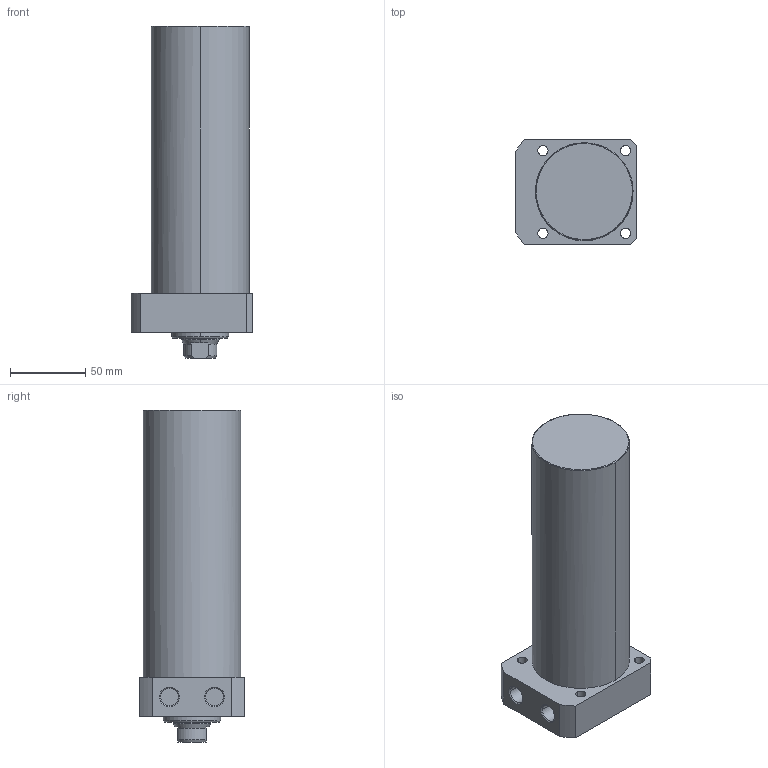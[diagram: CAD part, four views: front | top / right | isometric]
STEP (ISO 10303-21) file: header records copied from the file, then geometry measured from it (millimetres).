
FILE_DESCRIPTION((' '),'2;1');
FILE_NAME( 'TLLR-065CA-145.STEP.stp', '2025-10-24T16:34:55', (' '), ('--- Datakit www.datakit.com---'), ' Datakit CrossCadWare V2024.1 Dec 21 2023', 'Mastercam 2025', ' ');
FILE_SCHEMA(('AUTOMOTIVE_DESIGN { 1 0 10303 214 1 1 1 1 }'));
Length unit declared in the file: millimetre
Products named in the file (1): TLLR-065CA-145
Bounding box: 81 x 70 x 221 mm (x, y, z)
Volume: 734631.6 mm3; surface area: 60778 mm2
Topology: 1 solids, 1 shells, 63 faces, 179 edges, 124 vertices
Faces by surface type: cylinder 28, plane 19, cone 14, torus 2
Entity records: 2174 total; most frequent: DIRECTION 402, CARTESIAN_POINT 397, ORIENTED_EDGE 354, EDGE_CURVE 177, AXIS2_PLACEMENT_3D 169, VERTEX_POINT 124, CIRCLE 105, EDGE_LOOP 79
